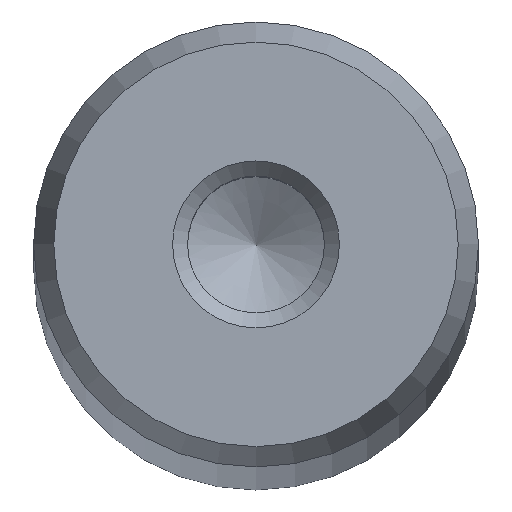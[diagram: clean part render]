
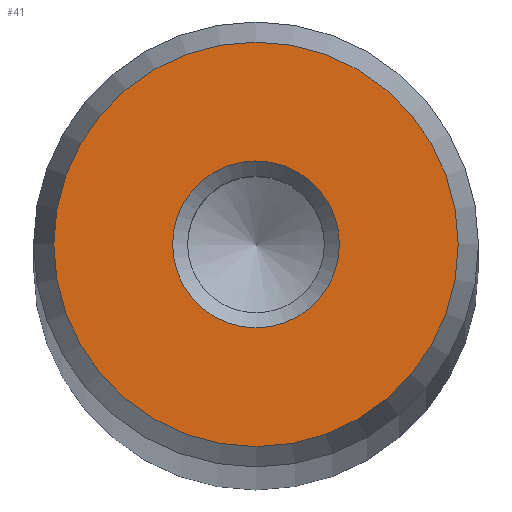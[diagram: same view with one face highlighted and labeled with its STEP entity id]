
A CAD part, top view. The second image highlights one B-rep face of the part: STEP entity #41.
In plain terms, the highlighted planar face has unit normal (0, 0, 1).
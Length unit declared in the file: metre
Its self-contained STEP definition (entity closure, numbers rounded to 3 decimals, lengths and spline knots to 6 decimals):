
#41 = ADVANCED_FACE( '', ( #88, #89 ), #90, .T. );
#88 = FACE_OUTER_BOUND( '', #147, .T. );
#89 = FACE_BOUND( '', #148, .T. );
#90 = PLANE( '', #149 );
#147 = EDGE_LOOP( '', ( #204 ) );
#148 = EDGE_LOOP( '', ( #205 ) );
#149 = AXIS2_PLACEMENT_3D( '', #206, #207, #208 );
#204 = ORIENTED_EDGE( '', *, *, #271, .T. );
#205 = ORIENTED_EDGE( '', *, *, #276, .T. );
#206 = CARTESIAN_POINT( '', ( 0., 0., 0.477 ) );
#207 = DIRECTION( '', ( 0., 0., 1. ) );
#208 = DIRECTION( '', ( 1., 0., 0. ) );
#271 = EDGE_CURVE( '', #299, #299, #300, .T. );
#276 = EDGE_CURVE( '', #305, #305, #306, .T. );
#299 = VERTEX_POINT( '', #336 );
#300 = CIRCLE( '', #337, 0.007272 );
#305 = VERTEX_POINT( '', #342 );
#306 = CIRCLE( '', #343, 0.003 );
#336 = CARTESIAN_POINT( '', ( 0.007272, 0., 0.477 ) );
#337 = AXIS2_PLACEMENT_3D( '', #373, #374, #375 );
#342 = CARTESIAN_POINT( '', ( 0.003, 0., 0.477 ) );
#343 = AXIS2_PLACEMENT_3D( '', #379, #380, #381 );
#373 = CARTESIAN_POINT( '', ( 0., 0., 0.477 ) );
#374 = DIRECTION( '', ( 0., 0., 1. ) );
#375 = DIRECTION( '', ( 1., 0., 0. ) );
#379 = CARTESIAN_POINT( '', ( 0., 0., 0.477 ) );
#380 = DIRECTION( '', ( 0., 0., -1. ) );
#381 = DIRECTION( '', ( 1., 0., 0. ) );
